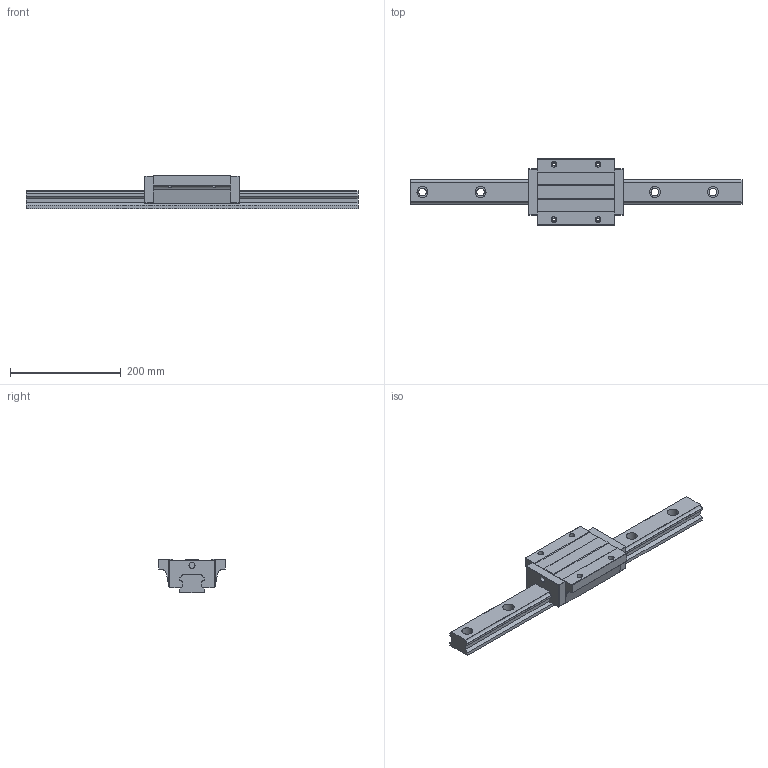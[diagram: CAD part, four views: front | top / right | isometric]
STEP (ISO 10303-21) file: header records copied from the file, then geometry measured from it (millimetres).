
FILE_DESCRIPTION (( 'STEP AP203' ), '1' );
FILE_NAME ('TRH45FE-XNC.STEP', '2024-08-16T05:57:23', ( '' ), ( '' ), 'SwSTEP 2.0', 'SolidWorks 2021', '' );
FILE_SCHEMA (( 'CONFIG_CONTROL_DESIGN' ));
Length unit declared in the file: millimetre
Products named in the file (1): TRH45FE-XNC
Bounding box: 600 x 120 x 60 mm (x, y, z)
Volume: 1365464.9 mm3; surface area: 176753.3 mm2
Topology: 1 solids, 1 shells, 187 faces, 510 edges, 330 vertices
Faces by surface type: cylinder 92, plane 91, sphere 4
Entity records: 6395 total; most frequent: CARTESIAN_POINT 1428, DIRECTION 1044, ORIENTED_EDGE 1012, EDGE_CURVE 506, AXIS2_PLACEMENT_3D 362, VERTEX_POINT 330, VECTOR 320, LINE 320
